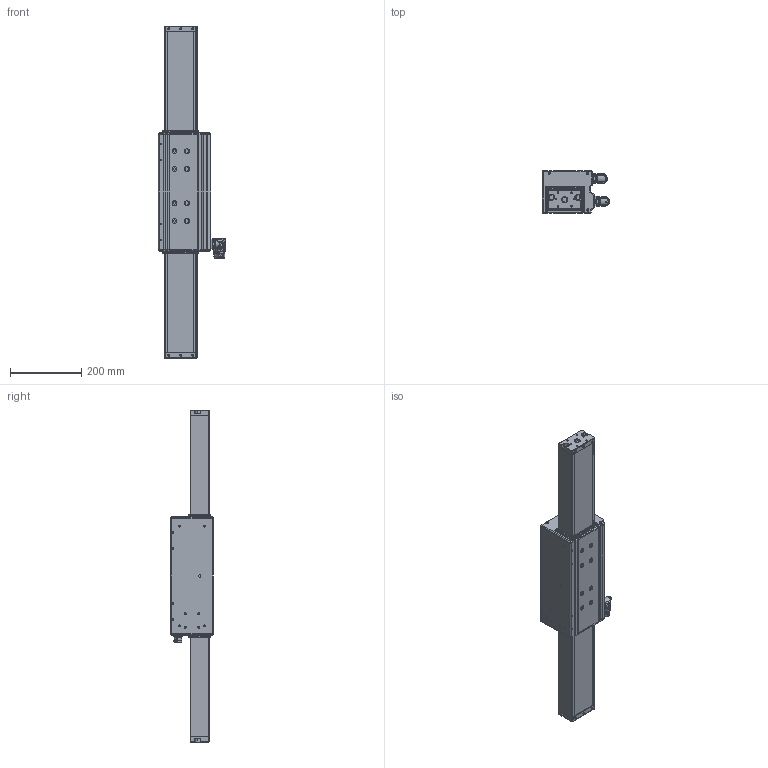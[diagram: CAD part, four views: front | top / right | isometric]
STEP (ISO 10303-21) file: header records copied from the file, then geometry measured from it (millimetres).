
FILE_DESCRIPTION (( 'STEP AP203' ), '1' );
FILE_NAME ('LDAT-S072050-XXX.STEP', '2012-05-23T06:01:25', ( '' ), ( '' ), 'SwSTEP 2.0', 'SolidWorks 2010', '' );
FILE_SCHEMA (( 'CONFIG_CONTROL_DESIGN' ));
Products named in the file (16): LDAT-S072050-XXX; Stator_frame50&75_200_Stator_frame50&75_400; stator_75_200; A805844-1; feedback_connector; A805844-2; A805844-3; power_connector; A805843-2; A805843-3_ASM; A805843-4; A805843-5; A805843-6; screw_m2.5_sockethead; Spring_75-200; Slider_frame75_200_LDAT-S072050-XXX
Assembly tree (32 placements, depth 5):
  LDAT-S072050-XXX
    Slider_frame75_200_LDAT-S072050-XXX
    Stator_frame50&75_200_Stator_frame50&75_400
      Spring_75-200  x4
      A805844-1  x2
      screw_m2.5_sockethead  x8
      power_connector
        A805843-5  x4
        A805843-3_ASM
          A805843-4
        A805843-2  x2
        A805843-6  x2
      stator_75_200
      feedback_connector
        A805844-3
        A805844-2  x2
Bounding box: 189.05 x 120 x 931.76 mm (x, y, z)
Volume: 3596230.4 mm3; surface area: 1370223 mm2
Topology: 35 solids, 65 shells, 7101 faces, 19911 edges, 12746 vertices
Faces by surface type: cylinder 2413, bspline 2256, plane 1995, cone 385, torus 52
Entity records: 232363 total; most frequent: CARTESIAN_POINT 126340, ORIENTED_EDGE 25039, DIRECTION 16579, EDGE_CURVE 12535, VERTEX_POINT 8186, AXIS2_PLACEMENT_3D 6076, B_SPLINE_CURVE_WITH_KNOTS 5252, EDGE_LOOP 4975
